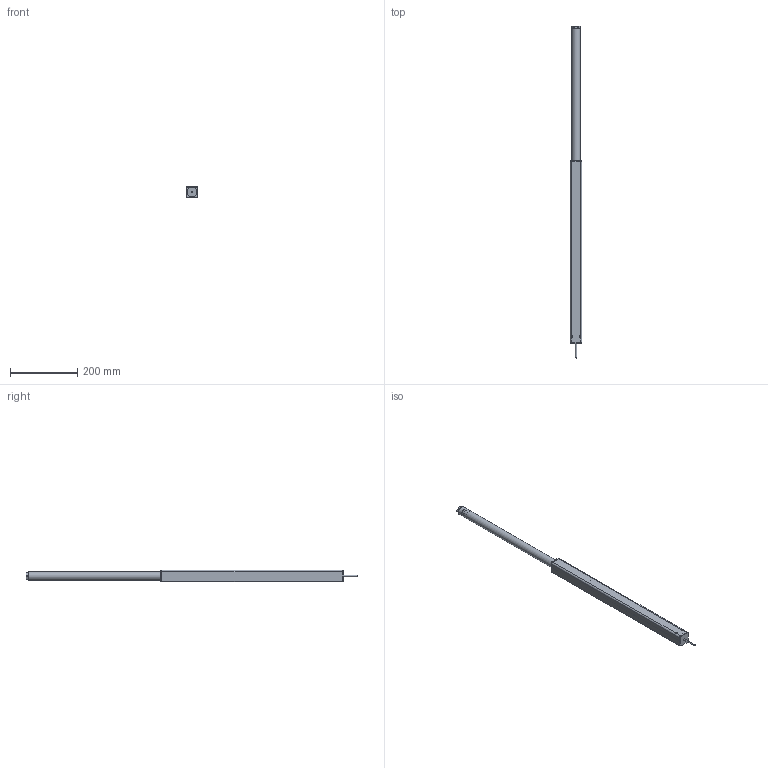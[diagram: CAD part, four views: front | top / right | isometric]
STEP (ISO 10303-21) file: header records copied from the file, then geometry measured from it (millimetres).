
FILE_DESCRIPTION(/* description */ ('Unknown'),/* implementation_level */ '2;1');
FILE_NAME(/* name */ '106.20004 Lineareinheit LA 1840_ausgefahren',/* time_stamp */ '2017-08-24T11:39:16+02:00',/* author */ ('Unknown'),/* organization */ ('Unknown'),/* preprocessor_version */ 'ST-DEVELOPER v16.7',/* originating_system */ 'DEX',/* authorisation */ $);
FILE_SCHEMA (('AUTOMOTIVE_DESIGN {1 0 10303 214 3 1 1}'));
Products named in the file (9): 106.20004; 119.00004; 142.00014; 115.00008; 142.00011; 122.00018; 125.00051; 123.00004; 113.00002_70mm
Assembly tree (9 placements, depth 2):
  106.20004
    119.00004
    142.00014  x2
    115.00008
    142.00011
    122.00018
    125.00051
    123.00004
    113.00002_70mm
Bounding box: 35 x 990.5 x 35 mm (x, y, z)
Volume: 366183.3 mm3; surface area: 246650.4 mm2
Topology: 8 solids, 8 shells, 776 faces, 1818 edges, 1082 vertices
Faces by surface type: cylinder 273, bspline 224, plane 204, cone 36, torus 27, sphere 12
Full cylindrical faces by diameter (mm): 2.2 x1, 4 x7, 4.134 x4, 5 x1, 6.647 x1, 8.376 x1, 17.3 x1, 19 x1, 20.8 x3, 21 x1, 25 x1, 28.3 x1, 30.4 x1, 30.63 x1
Entity records: 74513 total; most frequent: CARTESIAN_POINT 58862, ORIENTED_EDGE 3422, DIRECTION 2541, EDGE_CURVE 1711, VERTEX_POINT 1037, AXIS2_PLACEMENT_3D 983, EDGE_LOOP 858, FACE_BOUND 858
